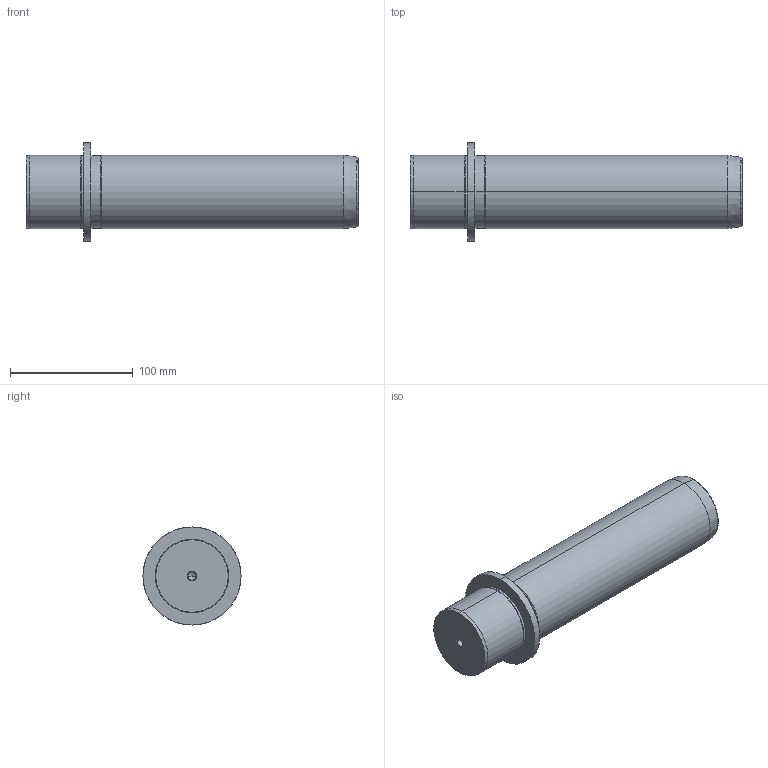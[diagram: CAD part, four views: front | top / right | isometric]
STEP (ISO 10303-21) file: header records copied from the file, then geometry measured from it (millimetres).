
FILE_DESCRIPTION(('CATIA V5 STEP Exchange'),'2;1');
FILE_NAME('C:\Users\Utente\Desktop\IO LAVORO\3D X SITO CF\X SITO\719\719-60x224.stp','2021-01-03T14:52:51+00:00',('none'),('none'),'CATIA Version 5 Release 20 GA (IN-10)','CATIA V5 STEP AP203','none');
FILE_SCHEMA(('CONFIG_CONTROL_DESIGN'));
Length unit declared in the file: millimetre
Products named in the file (1): 719-60x224
Bounding box: 271 x 80 x 80 mm (x, y, z)
Volume: 774844.1 mm3; surface area: 62260.6 mm2
Topology: 1 solids, 1 shells, 36 faces, 100 edges, 66 vertices
Faces by surface type: cone 16, cylinder 14, plane 4, torus 2
Entity records: 1267 total; most frequent: CARTESIAN_POINT 334, ORIENTED_EDGE 192, DIRECTION 159, EDGE_CURVE 96, AXIS2_PLACEMENT_3D 94, VERTEX_POINT 66, CIRCLE 57, EDGE_LOOP 40
